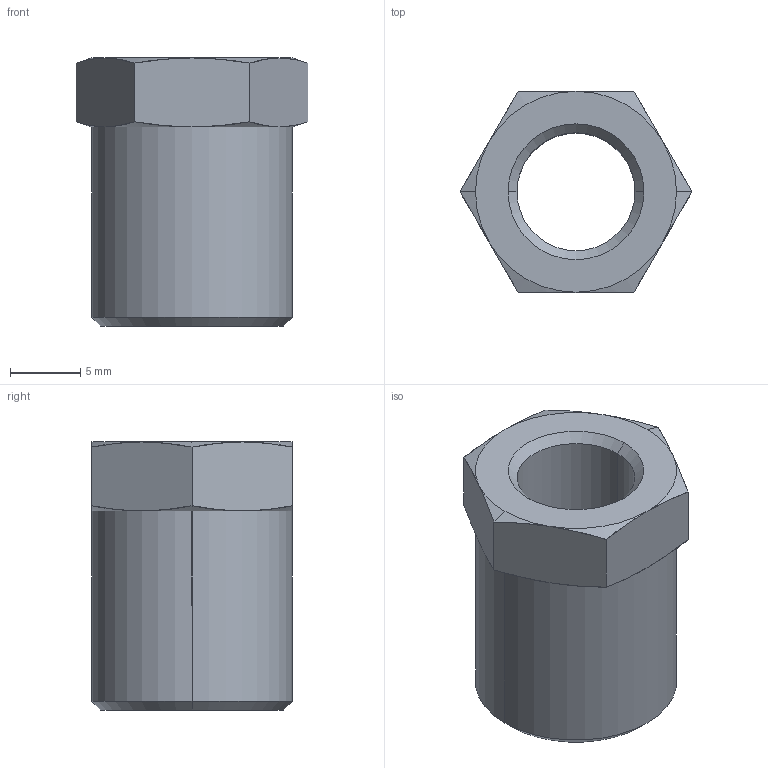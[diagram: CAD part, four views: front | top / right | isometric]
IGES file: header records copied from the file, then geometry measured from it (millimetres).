
Global section: file name: C:\Documents and Settings\Administrator\My Documents\PersonalProject\brassadapter.igs; native system: AutoDesk Inventor R2.0 ; preprocessor: AutoDesk Inventor Iges Exporter R2.0; author: No Author specified; organization: No Organization specified; date: 20020115.181847; units: inch
Bounding box: 16.48 x 14.27 x 19.05 mm (x, y, z)
Surface area: 1574.6 mm2 (no closed solid volume)
Topology: 0 solids, 0 shells, 34 faces, 144 edges, 144 vertices
Faces by surface type: revolution 26, bspline 8
